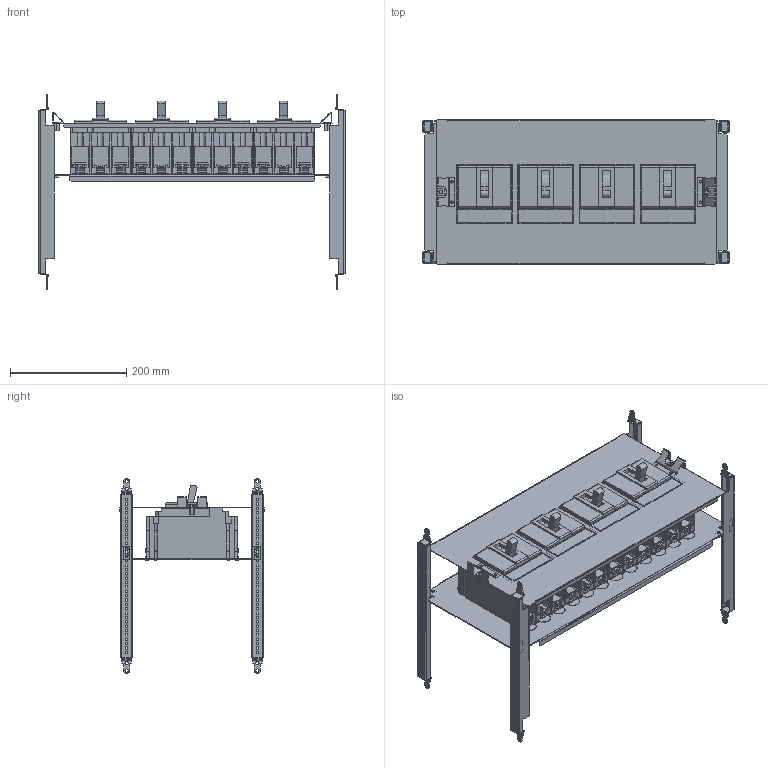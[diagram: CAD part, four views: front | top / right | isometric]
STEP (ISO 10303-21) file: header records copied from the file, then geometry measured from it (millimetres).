
FILE_DESCRIPTION(('CAx-IF Rec.Pracs.---Model Styling and Organization---1.2---2011-12-15','CAx-IF Rec.Pracs.---Geometric and Assembly Validation Properties---4.1---2014-06-16','CAx-IF Rec.Pracs.---PMI Polyline Presentation---2.0---2013-05-24'),'2;1');
FILE_NAME('R5PKIB7V62213 (F).stp','2021-07-29T03:11:12+03:00',(''),(''),'STEP Interface 4.4 by CT CoreTechnologie','3D_Evolution4.4 by CT CoreTechnologie','');
FILE_SCHEMA(('AUTOMOTIVE_DESIGN { 1 0 10303 214 1 1 1 1 }'));
Length unit declared in the file: millimetre
Products named in the file (1): R5PKIB7V62213 (F)
Bounding box: 526 x 248 x 335 mm (x, y, z)
Surface area: 1266865.1 mm2 (no closed solid volume)
Topology: 0 solids, 76 shells, 4142 faces, 12070 edges, 8126 vertices
Faces by surface type: plane 3162, cylinder 808, bspline 172
Entity records: 138320 total; most frequent: CARTESIAN_POINT 26451, ORIENTED_EDGE 24108, DIRECTION 21790, EDGE_CURVE 12054, VECTOR 10116, LINE 10116, VERTEX_POINT 8194, AXIS2_PLACEMENT_3D 5837
